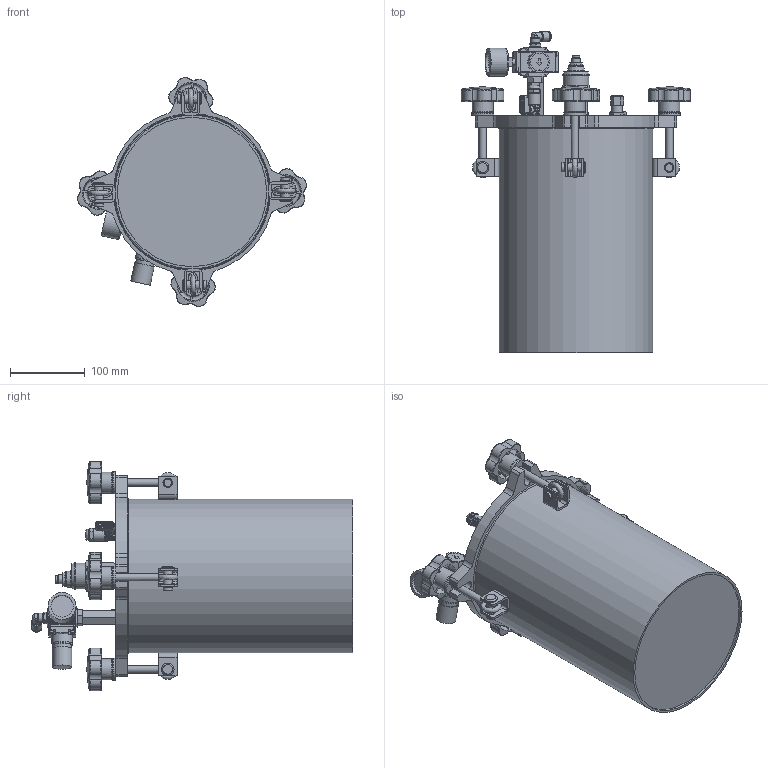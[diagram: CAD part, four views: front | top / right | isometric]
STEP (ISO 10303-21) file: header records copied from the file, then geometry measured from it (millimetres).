
FILE_DESCRIPTION (( 'STEP AP214' ), '1' );
FILE_NAME ('PT10LLS-CAP.STEP', '2024-10-11T14:36:36', ( '' ), ( '' ), 'SwSTEP 2.0', 'SolidWorks 2024', '' );
FILE_SCHEMA (( 'AUTOMOTIVE_DESIGN' ));
Length unit declared in the file: millimetre
Products named in the file (1): PT10LLS-CAP
Bounding box: 306.88 x 430 x 306.88 mm (x, y, z)
Volume: 1917609.3 mm3; surface area: 742199.9 mm2
Topology: 43 solids, 54 shells, 1435 faces, 3535 edges, 2289 vertices
Faces by surface type: plane 702, cylinder 338, bspline 222, cone 114, torus 55, sphere 4
Full cylindrical faces by diameter (mm): 1.9 x1, 2 x1, 3 x1, 5 x4, 5.5 x1, 5.6 x4, 6 x4, 7 x1, 7.4 x1, 7.5 x1, 8 x3, 8.15 x2, 8.2 x1, 8.376 x4, 8.566 x2, 9 x4, 9.4 x1, 10 x6, 10.2 x1, 10.4 x4, 11 x2, 11.445 x5, 11.6 x1, 11.8 x1, 12 x11, 12.5 x1, 12.7 x8, 13 x4, 13.5 x1, 13.8 x1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
Entity records: 73950 total; most frequent: CARTESIAN_POINT 42691, ORIENTED_EDGE 6394, DIRECTION 5657, EDGE_CURVE 3197, VERTEX_POINT 2188, AXIS2_PLACEMENT_3D 2014, EDGE_LOOP 1809, VECTOR 1629
